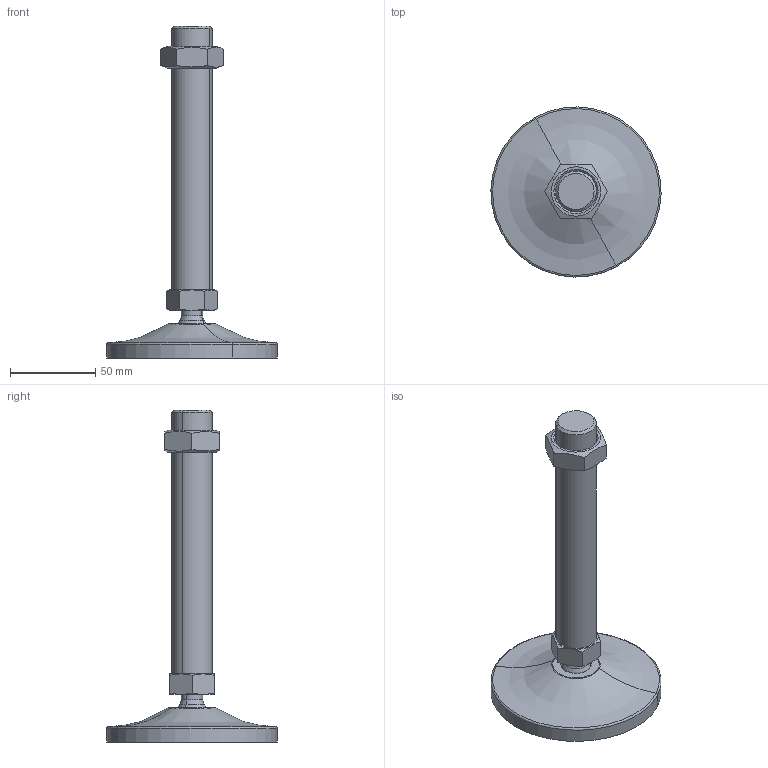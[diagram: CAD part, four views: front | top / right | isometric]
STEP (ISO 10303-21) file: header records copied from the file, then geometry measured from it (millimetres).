
FILE_DESCRIPTION(('CATIA V5 STEP Exchange'),'2;1');
FILE_NAME('C:\Users\ALI OZGUN\Desktop\alhan\saplama2\560102421.stp','2017-09-21T10:35:21+00:00',('none'),('none'),'CATIA Version 5 Release 21 GA (IN-10)','CATIA V5 STEP AP203','none');
FILE_SCHEMA(('CONFIG_CONTROL_DESIGN'));
Length unit declared in the file: millimetre
Products named in the file (1): 560102421
Bounding box: 99.97 x 99.97 x 195 mm (x, y, z)
Volume: 146721.4 mm3; surface area: 38221.1 mm2
Topology: 3 solids, 3 shells, 72 faces, 160 edges, 95 vertices
Faces by surface type: cone 28, plane 20, cylinder 14, torus 4, revolution 4, sphere 2
Entity records: 2121 total; most frequent: CARTESIAN_POINT 723, ORIENTED_EDGE 316, DIRECTION 191, EDGE_CURVE 158, AXIS2_PLACEMENT_3D 105, VERTEX_POINT 95, EDGE_LOOP 79, ADVANCED_FACE 72
